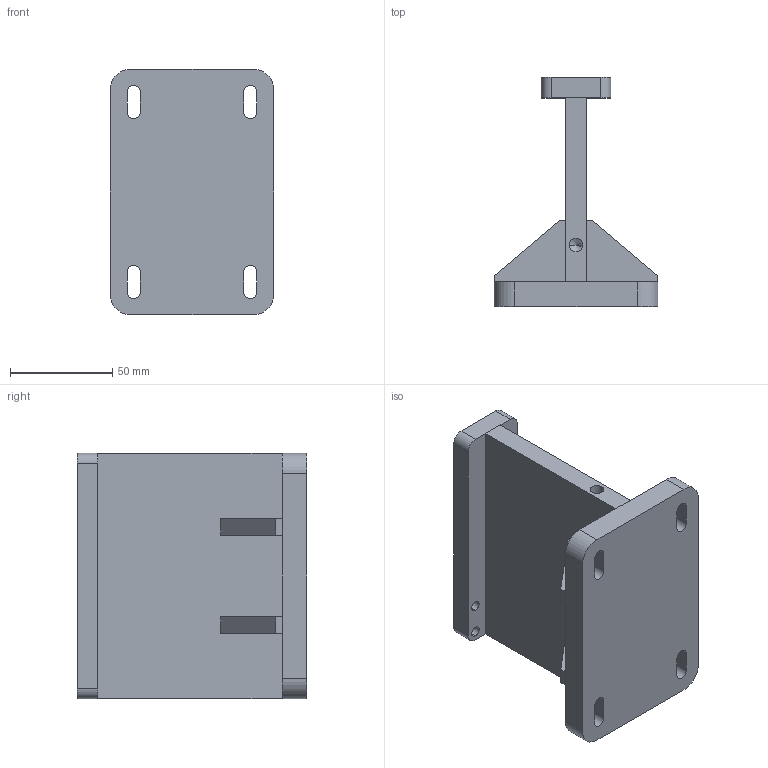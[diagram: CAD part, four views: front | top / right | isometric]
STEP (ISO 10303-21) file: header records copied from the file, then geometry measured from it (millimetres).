
FILE_DESCRIPTION (( 'STEP AP214' ), '1' );
FILE_NAME ('GZ21.02_V1台板.STEP', '2021-02-26T01:12:09', ( '微软中国' ), ( 'Microsoft' ), 'SwSTEP 2.0', 'SolidWorks 2017', '' );
FILE_SCHEMA (( 'AUTOMOTIVE_DESIGN' ));
Length unit declared in the file: millimetre
Products named in the file (1): GZ21.02_V1怢啣
Bounding box: 80 x 112 x 120 mm (x, y, z)
Volume: 275173.5 mm3; surface area: 71860.6 mm2
Topology: 7 solids, 7 shells, 98 faces, 238 edges, 157 vertices
Faces by surface type: plane 58, cylinder 38, cone 2
Entity records: 3010 total; most frequent: DIRECTION 510, CARTESIAN_POINT 492, ORIENTED_EDGE 472, EDGE_CURVE 236, AXIS2_PLACEMENT_3D 175, VECTOR 160, LINE 160, VERTEX_POINT 157
